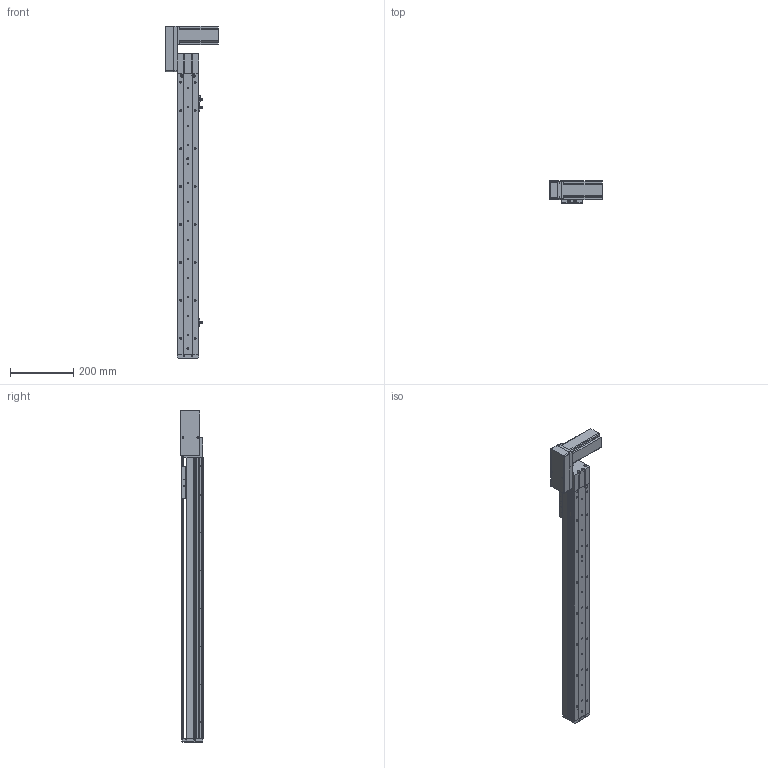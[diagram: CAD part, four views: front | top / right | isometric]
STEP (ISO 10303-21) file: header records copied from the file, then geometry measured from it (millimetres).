
FILE_DESCRIPTION (( 'STEP AP214' ), '1' );
FILE_NAME ('KSD68BS-S700-MRB-CM.STEP', '2019-08-22T05:57:00', ( '微软用户' ), ( '微软中国' ), 'SwSTEP 2.0', 'SolidWorks 2014', '' );
FILE_SCHEMA (( 'AUTOMOTIVE_DESIGN' ));
Length unit declared in the file: millimetre
Products named in the file (11): 悵誘欶奻狟殏; 68宽马达安装板连板上折同步带; 68宽单导轨半封闭同步带主动轮座右; 68单导轨同步带半封闭端板; KSD68BS 700俴最裔啣圉猾敕; 覜茼え68遵圉猾敕; KSD68BS半封闭同步带传动导轨座; U倰嫖萇EEㄜSX672; 台达ECMA－C20604AS伺服电机（400W); KSD68BS 700俴最菁啣圉猾敕; KSD68BS-S700-MRB-CM
Assembly tree (12 placements, depth 2):
  KSD68BS-S700-MRB-CM
    KSD68BS 700俴最菁啣圉猾敕
    台达ECMA－C20604AS伺服电机（400W)
    U倰嫖萇EEㄜSX672  x3
    KSD68BS半封闭同步带传动导轨座
    覜茼え68遵圉猾敕
    KSD68BS 700俴最裔啣圉猾敕
    68单导轨同步带半封闭端板
    68宽单导轨半封闭同步带主动轮座右
    68宽马达安装板连板上折同步带
    悵誘欶奻狟殏
Bounding box: 167.2 x 70.5 x 1049.5 mm (x, y, z)
Volume: 1992079.9 mm3; surface area: 675104.5 mm2
Topology: 13 solids, 13 shells, 1336 faces, 3820 edges, 2482 vertices
Faces by surface type: cylinder 658, plane 595, cone 83
Entity records: 48449 total; most frequent: CARTESIAN_POINT 9110, ORIENTED_EDGE 6392, DIRECTION 6350, EDGE_CURVE 3196, AXIS2_PLACEMENT_3D 2274, VERTEX_POINT 2106, VECTOR 1802, LINE 1802
